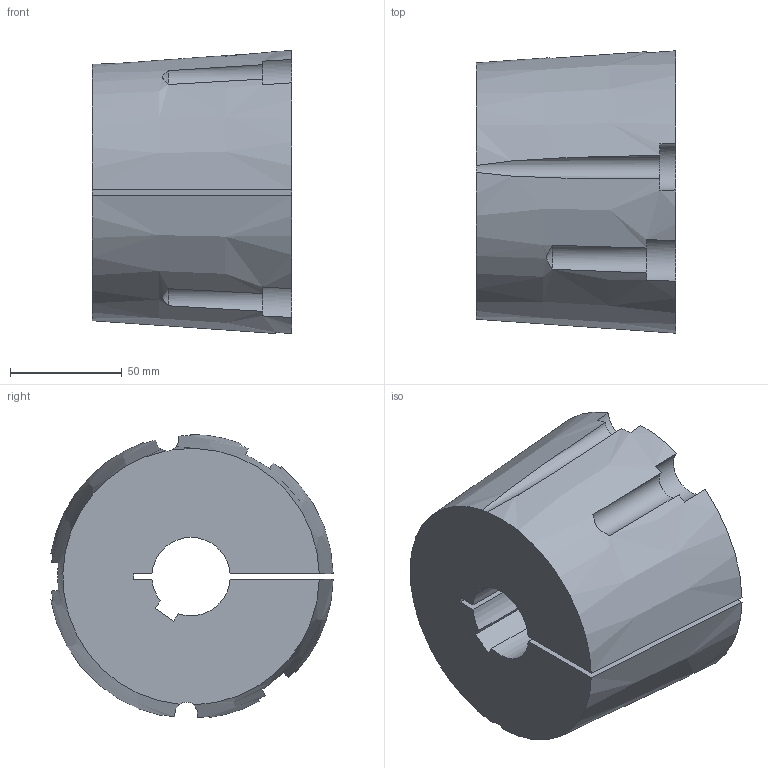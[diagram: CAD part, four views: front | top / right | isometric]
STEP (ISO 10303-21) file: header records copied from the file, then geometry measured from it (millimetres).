
FILE_DESCRIPTION( ( 'STEP AP203' ), '1' );
FILE_NAME( 'D:/export/antriebselemente/spannbuchsen_und_spannsaetze/taper-spannbuchsen_1008_bis_5050/taper-spannbuchsen_62251035Isometric_205.stp', '2018-12-11T11:11:26', ( '' ), ( '' ), ' ', 'PARTsolutions', ' ' );
FILE_SCHEMA( ( 'CONFIG_CONTROL_DESIGN' ) );
Length unit declared in the file: millimetre
Products named in the file (1): _taper-spannbuchsen_62251035
Bounding box: 89 x 126.13 x 126.46 mm (x, y, z)
Volume: 897456.8 mm3; surface area: 75400.6 mm2
Topology: 1 solids, 1 shells, 34 faces, 96 edges, 64 vertices
Faces by surface type: plane 15, cylinder 13, cone 6
Entity records: 1315 total; most frequent: CARTESIAN_POINT 391, ORIENTED_EDGE 192, DIRECTION 186, EDGE_CURVE 96, AXIS2_PLACEMENT_3D 80, VERTEX_POINT 64, CIRCLE 45, ADVANCED_FACE 34
